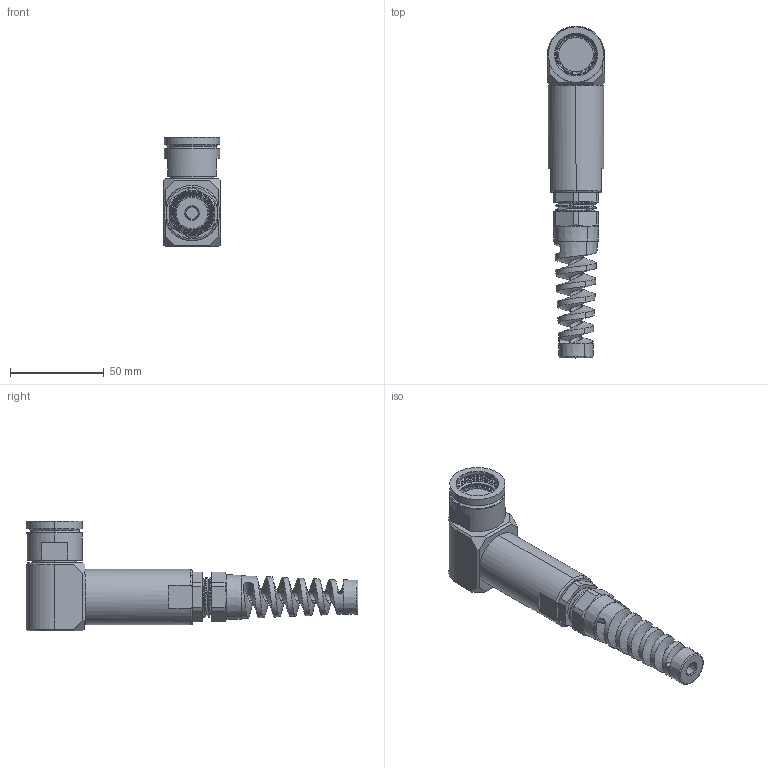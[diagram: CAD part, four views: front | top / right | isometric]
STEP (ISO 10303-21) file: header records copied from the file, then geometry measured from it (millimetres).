
FILE_DESCRIPTION (( 'STEP AP214' ), '1' );
FILE_NAME ('Q38EBSHELL-90X-15-XXXX-GB.STEP', '2025-09-22T15:06:12', ( '' ), ( '' ), 'SwSTEP 2.0', 'SolidWorks 2024', '' );
FILE_SCHEMA (( 'AUTOMOTIVE_DESIGN' ));
Length unit declared in the file: millimetre
Products named in the file (1): Q38EBSHELL-90X-15-XXXX-GB
Bounding box: 30.56 x 176.78 x 58.57 mm (x, y, z)
Volume: 101632.4 mm3; surface area: 25402.1 mm2
Topology: 2 solids, 4 shells, 308 faces, 942 edges, 659 vertices
Faces by surface type: plane 157, cylinder 79, cone 46, torus 13, bspline 13
Entity records: 17371 total; most frequent: CARTESIAN_POINT 9498, ORIENTED_EDGE 1884, DIRECTION 1408, EDGE_CURVE 942, VERTEX_POINT 659, AXIS2_PLACEMENT_3D 559, EDGE_LOOP 329, FACE_OUTER_BOUND 308
